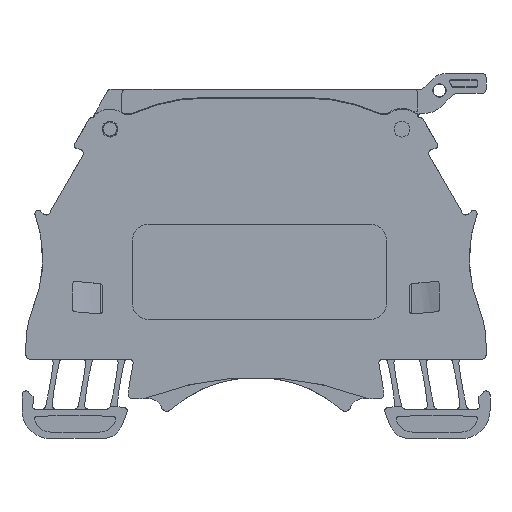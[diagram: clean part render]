
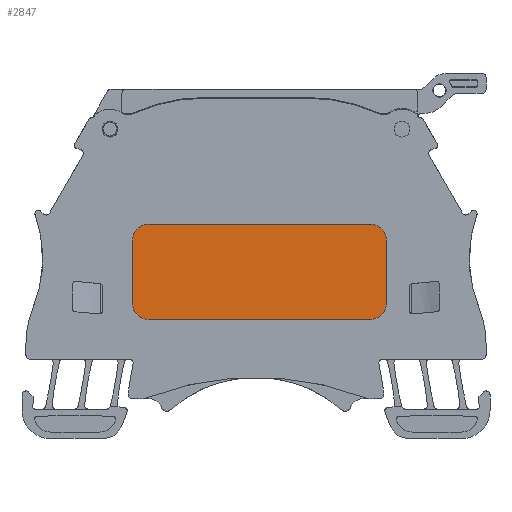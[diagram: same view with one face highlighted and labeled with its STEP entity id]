
A CAD part, front view. The second image highlights one B-rep face of the part: STEP entity #2847.
In plain terms, the highlighted planar face has unit normal (0, -1, 0) as drawn and (0, 1, 0) by its records, which use the part's own axes.
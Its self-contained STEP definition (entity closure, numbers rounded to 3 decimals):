
#2847=ADVANCED_FACE('',(#8989),#8991,.F.);
#8989=FACE_BOUND('',#8990,.T.);
#8990=EDGE_LOOP('',(#13423,#13424,#13425,#13426,#13427,#13428,#13429,#13430));
#8991=PLANE('',#8992);
#8992=AXIS2_PLACEMENT_3D('',#8993,#8994,#8995);
#8993=CARTESIAN_POINT('',(13.5,3.9,16.787));
#8994=DIRECTION('',(0.,-1.,0.));
#8995=DIRECTION('',(0.,0.,1.));
#13423=ORIENTED_EDGE('',*,*,#16579,.T.);
#13424=ORIENTED_EDGE('',*,*,#16580,.F.);
#13425=ORIENTED_EDGE('',*,*,#16581,.T.);
#13426=ORIENTED_EDGE('',*,*,#16582,.T.);
#13427=ORIENTED_EDGE('',*,*,#16583,.T.);
#13428=ORIENTED_EDGE('',*,*,#16584,.F.);
#13429=ORIENTED_EDGE('',*,*,#16585,.T.);
#13430=ORIENTED_EDGE('',*,*,#16586,.F.);
#16579=EDGE_CURVE('',#19210,#19211,#19212,.T.);
#16580=EDGE_CURVE('',#19213,#19211,#19214,.T.);
#16581=EDGE_CURVE('',#19213,#19215,#19216,.T.);
#16582=EDGE_CURVE('',#19215,#19217,#19218,.T.);
#16583=EDGE_CURVE('',#19217,#19219,#19220,.T.);
#16584=EDGE_CURVE('',#19221,#19219,#19222,.T.);
#16585=EDGE_CURVE('',#19221,#19223,#19224,.T.);
#16586=EDGE_CURVE('',#19210,#19223,#19225,.T.);
#19210=VERTEX_POINT('',#28376);
#19211=VERTEX_POINT('',#28377);
#19212=CIRCLE('',#28378,2.);
#19213=VERTEX_POINT('',#28382);
#19214=LINE('',#28383,#28384);
#19215=VERTEX_POINT('',#28386);
#19216=CIRCLE('',#28387,2.);
#19217=VERTEX_POINT('',#28391);
#19218=LINE('',#28392,#28393);
#19219=VERTEX_POINT('',#28395);
#19220=CIRCLE('',#28396,2.);
#19221=VERTEX_POINT('',#28400);
#19222=LINE('',#28401,#28402);
#19223=VERTEX_POINT('',#28404);
#19224=CIRCLE('',#28405,2.);
#19225=LINE('',#28409,#28410);
#28376=CARTESIAN_POINT('',(-16.425,3.9,17.287));
#28377=CARTESIAN_POINT('',(-14.425,3.9,19.287));
#28378=AXIS2_PLACEMENT_3D('',#28379,#28380,#28381);
#28379=CARTESIAN_POINT('',(-14.425,3.9,17.287));
#28380=DIRECTION('',(0.,1.,0.));
#28381=DIRECTION('',(-1.,0.,0.));
#28382=CARTESIAN_POINT('',(13.575,3.9,19.287));
#28383=CARTESIAN_POINT('',(13.575,3.9,19.287));
#28384=VECTOR('',#28385,1.);
#28385=DIRECTION('',(-1.,0.,0.));
#28386=CARTESIAN_POINT('',(15.575,3.9,17.287));
#28387=AXIS2_PLACEMENT_3D('',#28388,#28389,#28390);
#28388=CARTESIAN_POINT('',(13.575,3.9,17.287));
#28389=DIRECTION('',(0.,1.,0.));
#28390=DIRECTION('',(0.,0.,1.));
#28391=CARTESIAN_POINT('',(15.575,3.9,9.287));
#28392=CARTESIAN_POINT('',(15.575,3.9,17.287));
#28393=VECTOR('',#28394,1.);
#28394=DIRECTION('',(0.,0.,-1.));
#28395=CARTESIAN_POINT('',(13.575,3.9,7.287));
#28396=AXIS2_PLACEMENT_3D('',#28397,#28398,#28399);
#28397=CARTESIAN_POINT('',(13.575,3.9,9.287));
#28398=DIRECTION('',(0.,1.,0.));
#28399=DIRECTION('',(1.,0.,0.));
#28400=CARTESIAN_POINT('',(-14.425,3.9,7.287));
#28401=CARTESIAN_POINT('',(-14.425,3.9,7.287));
#28402=VECTOR('',#28403,1.);
#28403=DIRECTION('',(1.,0.,0.));
#28404=CARTESIAN_POINT('',(-16.425,3.9,9.287));
#28405=AXIS2_PLACEMENT_3D('',#28406,#28407,#28408);
#28406=CARTESIAN_POINT('',(-14.425,3.9,9.287));
#28407=DIRECTION('',(0.,1.,0.));
#28408=DIRECTION('',(0.,0.,-1.));
#28409=CARTESIAN_POINT('',(-16.425,3.9,17.287));
#28410=VECTOR('',#28411,1.);
#28411=DIRECTION('',(0.,0.,-1.));
